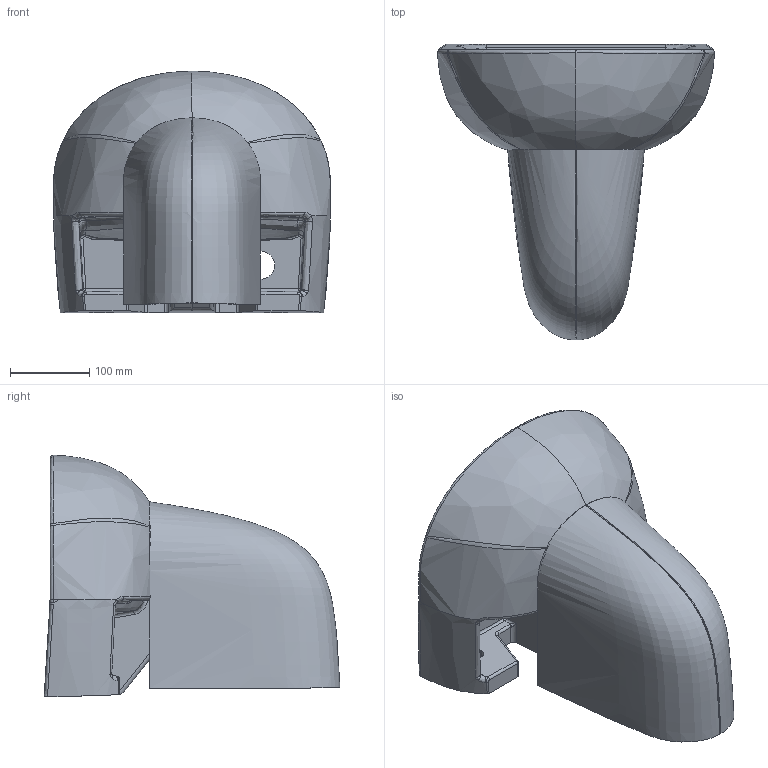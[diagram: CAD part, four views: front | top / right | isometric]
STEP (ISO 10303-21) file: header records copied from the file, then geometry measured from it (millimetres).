
FILE_DESCRIPTION (( 'STEP AP203' ), '1' );
FILE_NAME ('tp135-sd270.STEP', '2022-04-28T10:27:21', ( '' ), ( '' ), 'SwSTEP 2.0', 'SolidWorks 2021', '' );
FILE_SCHEMA (( 'CONFIG_CONTROL_DESIGN' ));
Products named in the file (1): tp135-sd270
Bounding box: 348.87 x 372.55 x 304.5 mm (x, y, z)
Volume: 5604042.6 mm3; surface area: 662481.4 mm2
Topology: 3 solids, 3 shells, 469 faces, 1202 edges, 729 vertices
Faces by surface type: bspline 320, cylinder 72, plane 63, sphere 10, cone 4
Entity records: 143973 total; most frequent: CARTESIAN_POINT 135185, ORIENTED_EDGE 2388, EDGE_CURVE 1194, DIRECTION 983, VERTEX_POINT 729, B_SPLINE_CURVE_WITH_KNOTS 717, EDGE_LOOP 477, FACE_OUTER_BOUND 469
